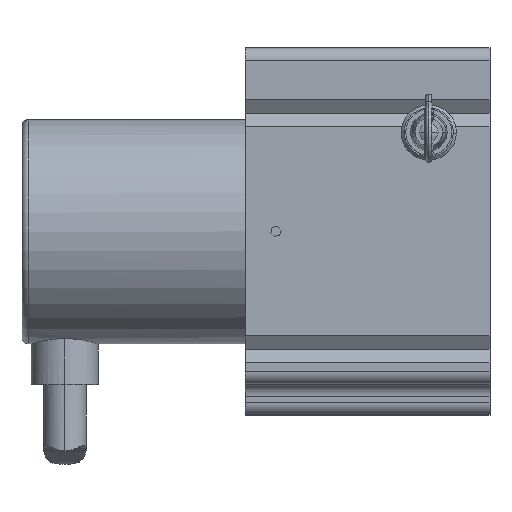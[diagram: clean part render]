
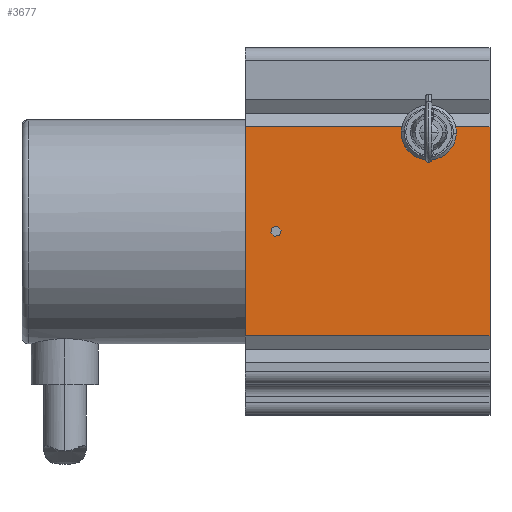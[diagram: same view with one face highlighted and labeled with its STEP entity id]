
A CAD part, top view. The second image highlights one B-rep face of the part: STEP entity #3677.
In plain terms, the highlighted planar face has unit normal (0, 0, 1).
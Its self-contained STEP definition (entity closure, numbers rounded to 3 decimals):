
#560=DIRECTION('',(0.304,0.953,0.));
#561=VECTOR('',#560,0.866);
#562=CARTESIAN_POINT('',(-34.417,-0.64,30.));
#563=LINE('',#562,#561);
#564=DIRECTION('',(-0.673,0.739,0.));
#565=VECTOR('',#564,0.866);
#566=CARTESIAN_POINT('',(-34.154,0.185,30.));
#567=LINE('',#566,#565);
#568=DIRECTION('',(-0.304,-0.953,0.));
#569=VECTOR('',#568,0.866);
#570=CARTESIAN_POINT('',(-35.583,0.64,30.));
#571=LINE('',#570,#569);
#572=DIRECTION('',(0.673,-0.739,0.));
#573=VECTOR('',#572,0.866);
#574=CARTESIAN_POINT('',(-35.846,-0.185,30.));
#575=LINE('',#574,#573);
#576=CARTESIAN_POINT('',(-10.,16.15,30.));
#577=DIRECTION('',(0.,0.,-1.));
#578=DIRECTION('',(0.999,-0.053,0.));
#579=AXIS2_PLACEMENT_3D('',#576,#577,#578);
#581=CARTESIAN_POINT('',(-10.,16.15,30.));
#582=DIRECTION('',(0.,0.,-1.));
#583=DIRECTION('',(0.978,0.208,0.));
#584=AXIS2_PLACEMENT_3D('',#581,#582,#583);
#586=DIRECTION('',(-1.,0.,0.));
#587=VECTOR('',#586,40.);
#588=CARTESIAN_POINT('',(0.,-17.086,30.));
#589=LINE('',#588,#587);
#590=DIRECTION('',(0.,1.,0.));
#591=VECTOR('',#590,34.172);
#592=CARTESIAN_POINT('',(-40.,-17.086,30.));
#593=LINE('',#592,#591);
#594=CARTESIAN_POINT('',(-10.,16.15,30.));
#595=DIRECTION('',(0.,0.,-1.));
#596=DIRECTION('',(-0.999,0.053,0.));
#597=AXIS2_PLACEMENT_3D('',#594,#595,#596);
#599=DIRECTION('',(-0.977,-0.214,0.));
#600=VECTOR('',#599,0.866);
#601=CARTESIAN_POINT('',(-34.417,-0.64,30.));
#602=LINE('',#601,#600);
#619=DIRECTION('',(0.977,0.214,0.));
#620=VECTOR('',#619,0.866);
#621=CARTESIAN_POINT('',(-35.583,0.64,30.));
#622=LINE('',#621,#620);
#668=DIRECTION('',(-1.,0.,0.));
#669=VECTOR('',#668,5.598);
#670=CARTESIAN_POINT('',(0.,17.086,30.));
#671=LINE('',#670,#669);
#716=DIRECTION('',(-1.,0.,0.));
#717=VECTOR('',#716,25.598);
#718=CARTESIAN_POINT('',(-14.402,17.086,30.));
#719=LINE('',#718,#717);
#959=DIRECTION('',(0.,1.,0.));
#960=VECTOR('',#959,34.172);
#961=CARTESIAN_POINT('',(0.,-17.086,30.));
#962=LINE('',#961,#960);
#2491=CARTESIAN_POINT('',(-40.,17.086,30.));
#2492=VERTEX_POINT('',#2491);
#2493=CARTESIAN_POINT('',(-40.,-17.086,30.));
#2494=VERTEX_POINT('',#2493);
#2531=CARTESIAN_POINT('',(0.,-17.086,30.));
#2532=VERTEX_POINT('',#2531);
#2533=CARTESIAN_POINT('',(0.,17.086,30.));
#2534=VERTEX_POINT('',#2533);
#2709=CARTESIAN_POINT('',(-5.506,15.911,30.));
#2710=CARTESIAN_POINT('',(-14.494,16.389,30.));
#2711=VERTEX_POINT('',#2709);
#2712=VERTEX_POINT('',#2710);
#2713=CARTESIAN_POINT('',(-14.402,17.086,30.));
#2714=VERTEX_POINT('',#2713);
#2715=CARTESIAN_POINT('',(-5.598,17.086,30.));
#2716=VERTEX_POINT('',#2715);
#2743=CARTESIAN_POINT('',(-34.417,-0.64,30.));
#2744=CARTESIAN_POINT('',(-35.263,-0.825,30.));
#2745=VERTEX_POINT('',#2743);
#2746=VERTEX_POINT('',#2744);
#2747=CARTESIAN_POINT('',(-34.154,0.185,30.));
#2748=VERTEX_POINT('',#2747);
#2749=CARTESIAN_POINT('',(-34.737,0.825,30.));
#2750=VERTEX_POINT('',#2749);
#2751=CARTESIAN_POINT('',(-35.583,0.64,30.));
#2752=VERTEX_POINT('',#2751);
#2753=CARTESIAN_POINT('',(-35.846,-0.185,30.));
#2754=VERTEX_POINT('',#2753);
#3642=CARTESIAN_POINT('',(-40.,17.086,30.));
#3643=DIRECTION('',(0.,0.,1.));
#3644=DIRECTION('',(0.,-1.,0.));
#3645=AXIS2_PLACEMENT_3D('',#3642,#3643,#3644);
#3646=PLANE('',#3645);
#3648=ORIENTED_EDGE('',*,*,#3647,.F.);
#3649=ORIENTED_EDGE('',*,*,#3632,.F.);
#3651=ORIENTED_EDGE('',*,*,#3650,.F.);
#3653=ORIENTED_EDGE('',*,*,#3652,.F.);
#3655=ORIENTED_EDGE('',*,*,#3654,.T.);
#3657=ORIENTED_EDGE('',*,*,#3656,.T.);
#3659=ORIENTED_EDGE('',*,*,#3658,.F.);
#3660=ORIENTED_EDGE('',*,*,#3628,.F.);
#3661=EDGE_LOOP('',(#3648,#3649,#3651,#3653,#3655,#3657,#3659,#3660));
#3662=FACE_OUTER_BOUND('',#3661,.F.);
#3664=ORIENTED_EDGE('',*,*,#3663,.F.);
#3666=ORIENTED_EDGE('',*,*,#3665,.T.);
#3668=ORIENTED_EDGE('',*,*,#3667,.T.);
#3670=ORIENTED_EDGE('',*,*,#3669,.F.);
#3672=ORIENTED_EDGE('',*,*,#3671,.T.);
#3674=ORIENTED_EDGE('',*,*,#3673,.T.);
#3675=EDGE_LOOP('',(#3664,#3666,#3668,#3670,#3672,#3674));
#3676=FACE_BOUND('',#3675,.F.);
#3677=ADVANCED_FACE('',(#3662,#3676),#3646,.T.);
#580=CIRCLE('',#579,4.5);
#585=CIRCLE('',#584,4.5);
#598=CIRCLE('',#597,4.5);
#3628=EDGE_CURVE('',#2712,#2714,#598,.T.);
#3632=EDGE_CURVE('',#2716,#2711,#585,.T.);
#3647=EDGE_CURVE('',#2711,#2712,#580,.T.);
#3650=EDGE_CURVE('',#2534,#2716,#671,.T.);
#3652=EDGE_CURVE('',#2532,#2534,#962,.T.);
#3654=EDGE_CURVE('',#2532,#2494,#589,.T.);
#3656=EDGE_CURVE('',#2494,#2492,#593,.T.);
#3658=EDGE_CURVE('',#2714,#2492,#719,.T.);
#3663=EDGE_CURVE('',#2745,#2746,#602,.T.);
#3665=EDGE_CURVE('',#2745,#2748,#563,.T.);
#3667=EDGE_CURVE('',#2748,#2750,#567,.T.);
#3669=EDGE_CURVE('',#2752,#2750,#622,.T.);
#3671=EDGE_CURVE('',#2752,#2754,#571,.T.);
#3673=EDGE_CURVE('',#2754,#2746,#575,.T.);
